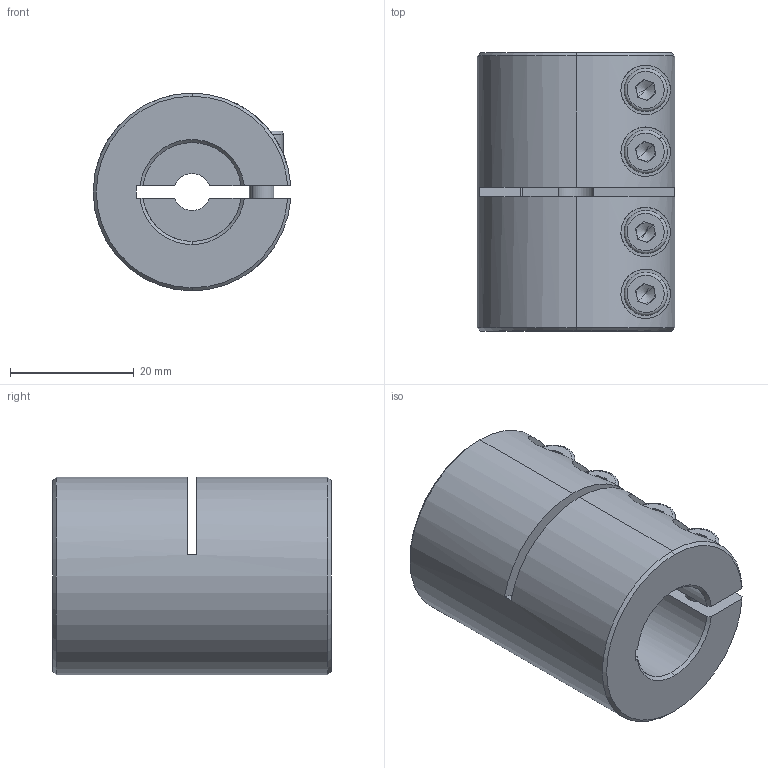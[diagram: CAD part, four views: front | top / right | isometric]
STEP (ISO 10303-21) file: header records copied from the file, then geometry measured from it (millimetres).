
FILE_DESCRIPTION (( 'STEP AP214' ), '1' );
FILE_NAME ('LL-B-D32L45-6-16½¨Ä£.STEP', '2022-07-21T06:45:31', ( '' ), ( '' ), 'SwSTEP 2.0', 'SolidWorks 2022', '' );
FILE_SCHEMA (( 'AUTOMOTIVE_DESIGN' ));
Length unit declared in the file: millimetre
Products named in the file (1): LL-B-D32L45-6-16膘耀
Bounding box: 31.97 x 45 x 32 mm (x, y, z)
Volume: 28879.8 mm3; surface area: 10902.4 mm2
Topology: 1 solids, 1 shells, 193 faces, 492 edges, 309 vertices
Faces by surface type: plane 88, cylinder 77, cone 20, torus 8
Entity records: 6357 total; most frequent: CARTESIAN_POINT 1583, DIRECTION 1037, ORIENTED_EDGE 968, EDGE_CURVE 484, AXIS2_PLACEMENT_3D 403, VERTEX_POINT 309, LINE 231, VECTOR 231
